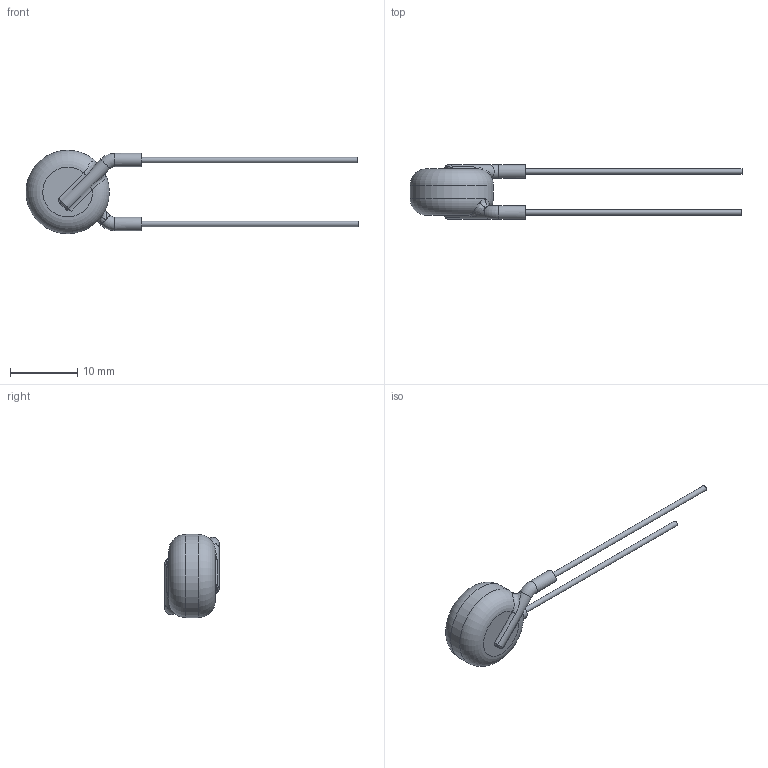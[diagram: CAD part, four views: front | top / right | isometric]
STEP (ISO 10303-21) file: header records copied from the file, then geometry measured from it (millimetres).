
FILE_DESCRIPTION((''),'2;1');
FILE_NAME('I:\Marketing\M6t1\3D-Models\Zchng-Werk-3\Upload for homepage\Ceramite\Y5R-10kV\615R100GAST10\615R100GAST10.stp','2015-08-28T09:39:36',(''),(''),'Autodesk Inventor 2013','Autodesk Inventor 2013','');
FILE_SCHEMA(('AUTOMOTIVE_DESIGN { 1 0 10303 214 1 1 1 1 }'));
Length unit declared in the file: centimetre
Products named in the file (1): 615R100GAST10
Bounding box: 49.4 x 8.1 x 12.4 mm (x, y, z)
Surface area: 680.9 mm2 (no closed solid volume)
Topology: 0 solids, 1 shells, 45 faces, 104 edges, 58 vertices
Faces by surface type: bspline 14, cylinder 13, torus 10, plane 8
Full cylindrical faces by diameter (mm): 0.81 x2, 2 x2, 12.4 x1
Entity records: 1621 total; most frequent: CARTESIAN_POINT 706, ORIENTED_EDGE 164, DIRECTION 160, EDGE_CURVE 82, AXIS2_PLACEMENT_3D 74, EDGE_LOOP 56, VERTEX_POINT 50, STYLED_ITEM 46
